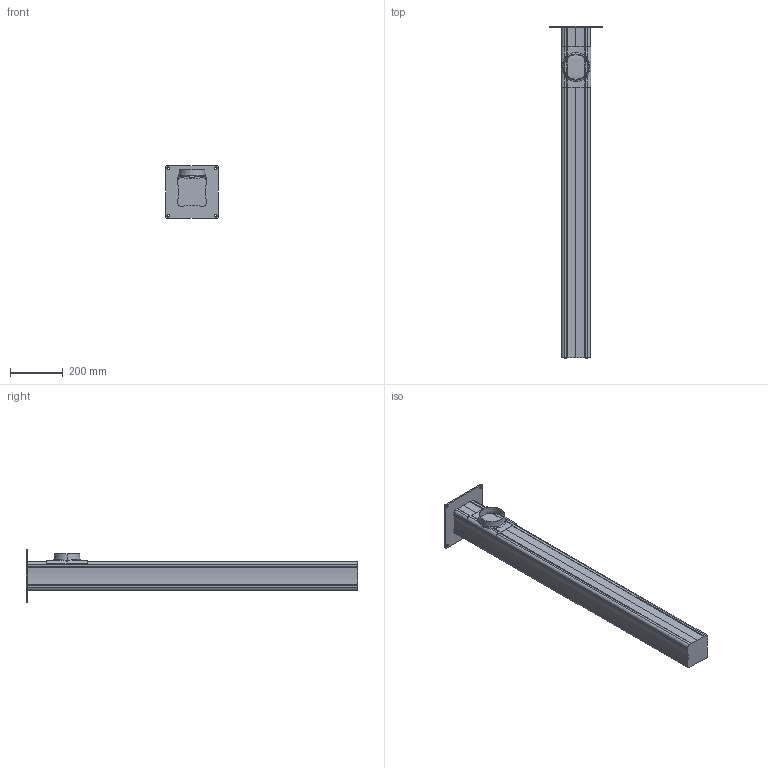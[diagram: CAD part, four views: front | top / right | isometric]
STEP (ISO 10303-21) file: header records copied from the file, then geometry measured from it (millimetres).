
FILE_DESCRIPTION((''),'2;1');
FILE_NAME('101345','2015-01-09T',('Tomas Bellgran'),(''),'PRO/ENGINEER BY PARAMETRIC TECHNOLOGY CORPORATION, 2013410','PRO/ENGINEER BY PARAMETRIC TECHNOLOGY CORPORATION, 2013410','');
FILE_SCHEMA(('AUTOMOTIVE_DESIGN { 1 0 10303 214 1 1 1 1 }'));
Length unit declared in the file: millimetre
Products named in the file (6): 100764; 100727; G_MTI_SPIGOT_75; G_MTI_SPIGOT_75_TPE; 101335; 101345
Assembly tree (5 placements, depth 3):
  101345
    100764
    100727
    101335
      G_MTI_SPIGOT_75
      G_MTI_SPIGOT_75_TPE
Bounding box: 200 x 1255 x 200 mm (x, y, z)
Volume: 14207559.1 mm3; surface area: 678801.6 mm2
Topology: 4 solids, 4 shells, 151 faces, 365 edges, 221 vertices
Faces by surface type: bspline 56, cylinder 45, plane 30, torus 12, cone 8
Entity records: 11079 total; most frequent: CARTESIAN_POINT 4469, ORIENTED_EDGE 730, DIRECTION 598, PRESENTATION_STYLE_ASSIGNMENT 464, STYLED_ITEM 464, CURVE_STYLE 365, EDGE_CURVE 365, PROPERTY_DEFINITION 256
